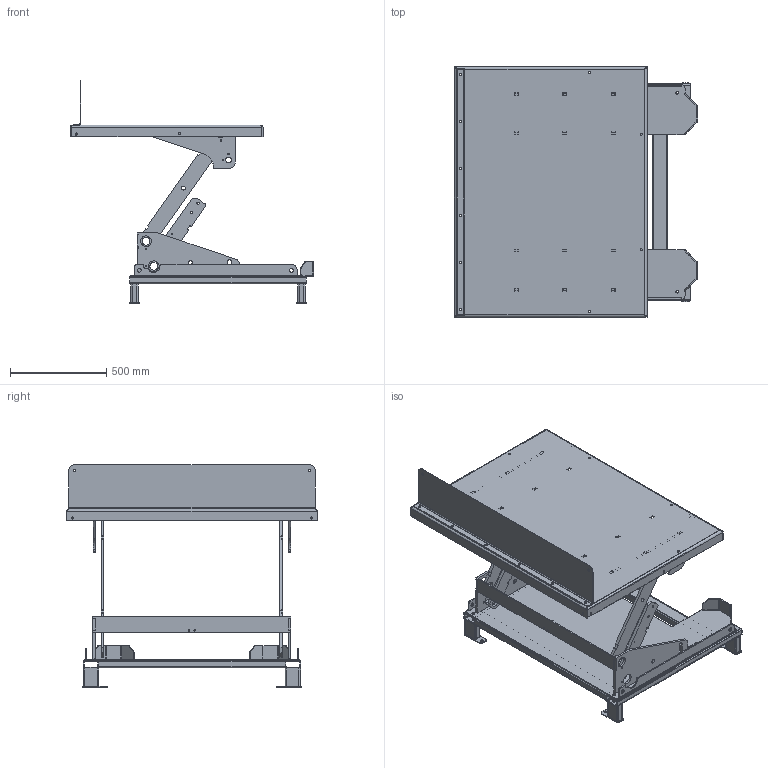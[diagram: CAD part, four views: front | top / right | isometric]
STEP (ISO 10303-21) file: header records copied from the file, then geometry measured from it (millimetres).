
FILE_DESCRIPTION(/* description */ (''),/* implementation_level */ '2;1');
FILE_NAME(/* name */ 'C:\Autodesk_VaultWork\Ritningar\Exporterade modeller\ART 1500GV - (22113)\22113_Raised.stp',/* time_stamp */ '2019-12-20T12:01:17+01:00',/* author */ ('johso'),/* organization */ (''),/* preprocessor_version */ 'ST-DEVELOPER v16.5',/* originating_system */ 'Autodesk Inventor 2017',/* authorisation */ '');
FILE_SCHEMA (('AUTOMOTIVE_DESIGN { 1 0 10303 214 3 1 1 }'));
Length unit declared in the file: millimetre
Products named in the file (9): Assembly22; 22023_Raised; 35398; 45274; 82153 - 96; 45273-1; 82153 - 968; 82153 - 917; 82153 - 917_1
Assembly tree (12 placements, depth 4):
  Assembly22
    22023_Raised
    35398
      45274  x4
        82153 - 96
        45273-1
      82153 - 968  x2
      82153 - 917
      82153 - 917_1
Bounding box: 1262.56 x 1300 x 1155 mm (x, y, z)
Volume: 26499138.9 mm3; surface area: 8943912.5 mm2
Topology: 28 solids, 28 shells, 1634 faces, 4670 edges, 3096 vertices
Faces by surface type: cylinder 1004, plane 622, bspline 8
Full cylindrical faces by diameter (mm): 5.7 x2, 6.9 x4, 7.4 x16, 8.5 x2, 11 x4, 12 x12, 12.5 x12, 13 x12, 15 x4, 20 x6, 30.2 x4
Entity records: 49642 total; most frequent: DIRECTION 8968, CARTESIAN_POINT 8786, ORIENTED_EDGE 8316, EDGE_CURVE 4158, AXIS2_PLACEMENT_3D 3332, VERTEX_POINT 2798, LINE 2304, VECTOR 2304
